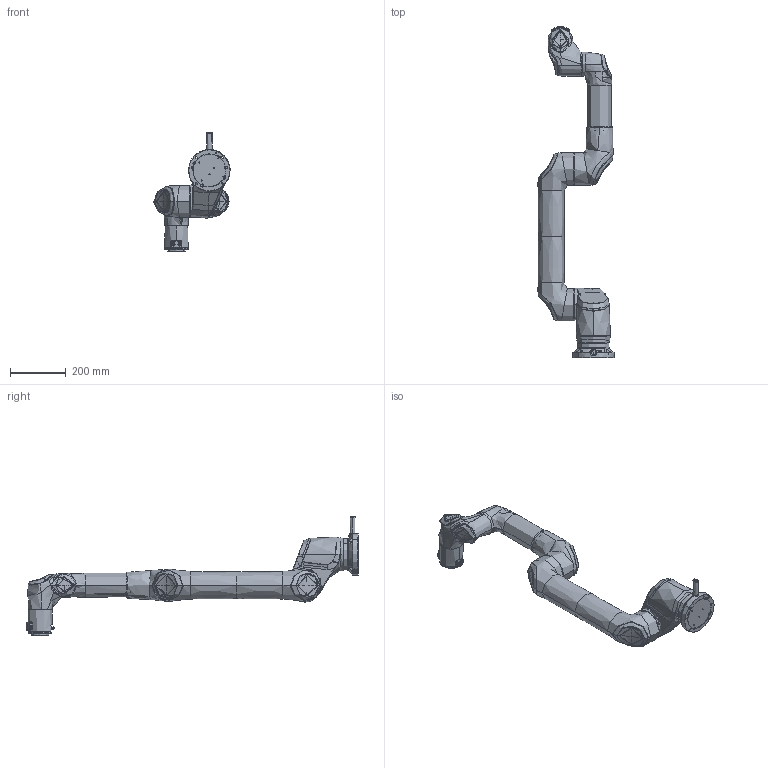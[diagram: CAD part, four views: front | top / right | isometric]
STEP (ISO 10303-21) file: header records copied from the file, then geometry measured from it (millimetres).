
FILE_DESCRIPTION (( 'STEP AP214' ), '1' );
FILE_NAME ('LINK 6 ARM_LITE_R04.STEP', '2022-06-22T16:48:19', ( '' ), ( '' ), 'SwSTEP 2.0', 'SolidWorks 2022', '' );
FILE_SCHEMA (( 'AUTOMOTIVE_DESIGN' ));
Length unit declared in the file: millimetre
Products named in the file (8): LINK 6 ARM_LITE_R04; LINK 6_LOWER WRIST; LINK 6_BASE; LINK 6_SHOULDER; LINK 6_WRIST; LINK 6_UPPER WRIST; LINK 6_ARM; LINK 6_FOREARM
Assembly tree (7 placements, depth 2):
  LINK 6 ARM_LITE_R04
    LINK 6_BASE
    LINK 6_SHOULDER
    LINK 6_ARM
    LINK 6_FOREARM
    LINK 6_LOWER WRIST
    LINK 6_UPPER WRIST
    LINK 6_WRIST
Bounding box: 272.91 x 1186.76 x 424.28 mm (x, y, z)
Topology: 80 solids, 85 shells, 3557 faces, 8671 edges, 5404 vertices
Faces by surface type: cylinder 1233, bspline 785, plane 733, cone 664, torus 138, sphere 4
Entity records: 444802 total; most frequent: CARTESIAN_POINT 331062, ORIENTED_EDGE 17270, DIRECTION 12580, EDGE_CURVE 8635, VERTEX_POINT 5404, AXIS2_PLACEMENT_3D 4976, EDGE_LOOP 3817, UNCERTAINTY_MEASURE_WITH_UNIT 3652
